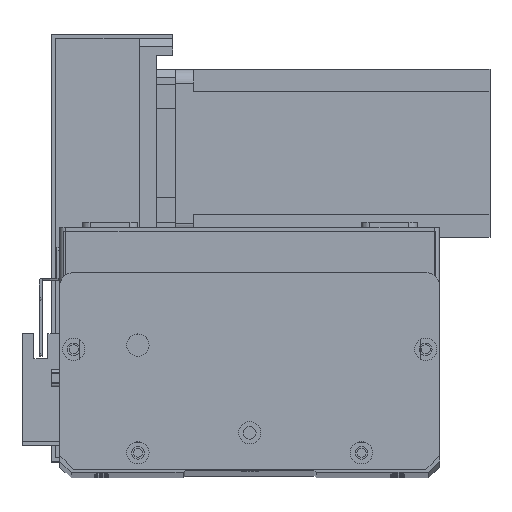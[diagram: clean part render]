
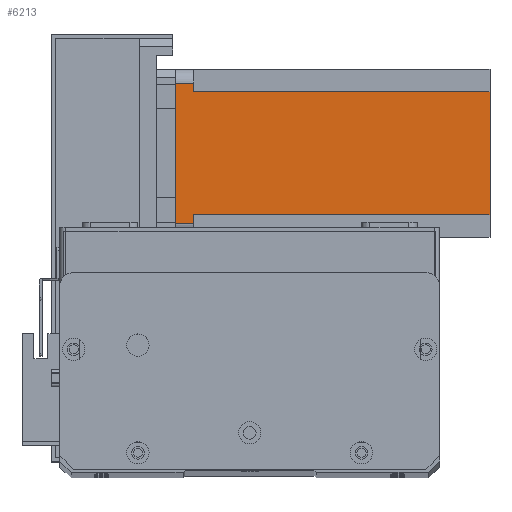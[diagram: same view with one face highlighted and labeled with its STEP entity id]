
A CAD part, top view. The second image highlights one B-rep face of the part: STEP entity #6213.
In plain terms, the highlighted planar face has unit normal (0, 0, 1) as drawn and (0, -1, 0) by its records, which use the part's own axes.
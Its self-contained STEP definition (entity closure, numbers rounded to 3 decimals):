
#110 = VERTEX_POINT ( 'NONE', #13176 ) ;
#781 = LINE ( 'NONE', #22131, #12264 ) ;
#1388 = CARTESIAN_POINT ( 'NONE',  ( 55., 0., -112.5 ) ) ;
#1484 = EDGE_CURVE ( 'NONE', #10354, #18249, #18456, .T. ) ;
#1930 = ORIENTED_EDGE ( 'NONE', *, *, #27914, .F. ) ;
#2567 = DIRECTION ( 'NONE',  ( 0., 0., -1. ) ) ;
#2762 = EDGE_CURVE ( 'NONE', #10354, #25799, #9890, .T. ) ;
#2846 = LINE ( 'NONE', #1388, #26229 ) ;
#2887 = DIRECTION ( 'NONE',  ( 0., -1., 0. ) ) ;
#3013 = CARTESIAN_POINT ( 'NONE',  ( 52., 0., -112.5 ) ) ;
#3732 = ORIENTED_EDGE ( 'NONE', *, *, #22944, .T. ) ;
#3806 = PLANE ( 'NONE',  #23752 ) ;
#4499 = DIRECTION ( 'NONE',  ( 0., 0., 1. ) ) ;
#5015 = LINE ( 'NONE', #17805, #22389 ) ;
#5313 = CARTESIAN_POINT ( 'NONE',  ( 0., 0., 0. ) ) ;
#5578 = CARTESIAN_POINT ( 'NONE',  ( 52., 0., -112.5 ) ) ;
#5812 = DIRECTION ( 'NONE',  ( 0., 0., -1. ) ) ;
#5997 = DIRECTION ( 'NONE',  ( 0., 0., 1. ) ) ;
#6213 = ADVANCED_FACE ( 'NONE', ( #16405 ), #3806, .T. ) ;
#6394 = CARTESIAN_POINT ( 'NONE',  ( 0., 0., -112.5 ) ) ;
#6875 = CARTESIAN_POINT ( 'NONE',  ( 5., 0., 0. ) ) ;
#7286 = VECTOR ( 'NONE', #12224, 1000. ) ;
#7671 = EDGE_LOOP ( 'NONE', ( #17263, #22893, #16173, #3732, #1930, #19067, #29083, #22919 ) ) ;
#9890 = LINE ( 'NONE', #5578, #15207 ) ;
#10354 = VERTEX_POINT ( 'NONE', #24057 ) ;
#11449 = EDGE_CURVE ( 'NONE', #26991, #110, #14744, .T. ) ;
#11617 = CARTESIAN_POINT ( 'NONE',  ( 55., 0., 0. ) ) ;
#12224 = DIRECTION ( 'NONE',  ( 1., 0., 0. ) ) ;
#12264 = VECTOR ( 'NONE', #24358, 1000. ) ;
#13176 = CARTESIAN_POINT ( 'NONE',  ( 8., 0., -6.5 ) ) ;
#13357 = EDGE_CURVE ( 'NONE', #18249, #17737, #2846, .T. ) ;
#13382 = LINE ( 'NONE', #5313, #7286 ) ;
#13897 = LINE ( 'NONE', #29049, #22009 ) ;
#14738 = CARTESIAN_POINT ( 'NONE',  ( 5., 0., -6.5 ) ) ;
#14744 = LINE ( 'NONE', #20397, #20043 ) ;
#15207 = VECTOR ( 'NONE', #5812, 1000. ) ;
#15741 = CARTESIAN_POINT ( 'NONE',  ( 55., 0., -6.5 ) ) ;
#15746 = DIRECTION ( 'NONE',  ( 0., 0., -1. ) ) ;
#16038 = VERTEX_POINT ( 'NONE', #6875 ) ;
#16173 = ORIENTED_EDGE ( 'NONE', *, *, #17887, .F. ) ;
#16405 = FACE_OUTER_BOUND ( 'NONE', #7671, .T. ) ;
#17263 = ORIENTED_EDGE ( 'NONE', *, *, #1484, .T. ) ;
#17737 = VERTEX_POINT ( 'NONE', #11617 ) ;
#17766 = VECTOR ( 'NONE', #24839, 1000. ) ;
#17805 = CARTESIAN_POINT ( 'NONE',  ( 8., 0., -6.5 ) ) ;
#17887 = EDGE_CURVE ( 'NONE', #16038, #17737, #13382, .T. ) ;
#18249 = VERTEX_POINT ( 'NONE', #15741 ) ;
#18456 = LINE ( 'NONE', #24517, #17766 ) ;
#19067 = ORIENTED_EDGE ( 'NONE', *, *, #11449, .F. ) ;
#20043 = VECTOR ( 'NONE', #4499, 1000. ) ;
#20397 = CARTESIAN_POINT ( 'NONE',  ( 8., 0., -112.5 ) ) ;
#21059 = EDGE_CURVE ( 'NONE', #26991, #25799, #781, .T. ) ;
#22009 = VECTOR ( 'NONE', #15746, 1000. ) ;
#22131 = CARTESIAN_POINT ( 'NONE',  ( 0., 0., -112.5 ) ) ;
#22389 = VECTOR ( 'NONE', #26757, 1000. ) ;
#22893 = ORIENTED_EDGE ( 'NONE', *, *, #13357, .T. ) ;
#22919 = ORIENTED_EDGE ( 'NONE', *, *, #2762, .F. ) ;
#22944 = EDGE_CURVE ( 'NONE', #16038, #27673, #13897, .T. ) ;
#23436 = CARTESIAN_POINT ( 'NONE',  ( 8., 0., -112.5 ) ) ;
#23752 = AXIS2_PLACEMENT_3D ( 'NONE', #6394, #2887, #2567 ) ;
#24057 = CARTESIAN_POINT ( 'NONE',  ( 52., 0., -6.5 ) ) ;
#24358 = DIRECTION ( 'NONE',  ( 1., 0., 0. ) ) ;
#24517 = CARTESIAN_POINT ( 'NONE',  ( 52., 0., -6.5 ) ) ;
#24839 = DIRECTION ( 'NONE',  ( 1., 0., 0. ) ) ;
#25799 = VERTEX_POINT ( 'NONE', #3013 ) ;
#26229 = VECTOR ( 'NONE', #5997, 1000. ) ;
#26757 = DIRECTION ( 'NONE',  ( -1., 0., 0. ) ) ;
#26991 = VERTEX_POINT ( 'NONE', #23436 ) ;
#27673 = VERTEX_POINT ( 'NONE', #14738 ) ;
#27914 = EDGE_CURVE ( 'NONE', #110, #27673, #5015, .T. ) ;
#29049 = CARTESIAN_POINT ( 'NONE',  ( 5., 0., -112.5 ) ) ;
#29083 = ORIENTED_EDGE ( 'NONE', *, *, #21059, .T. ) ;
